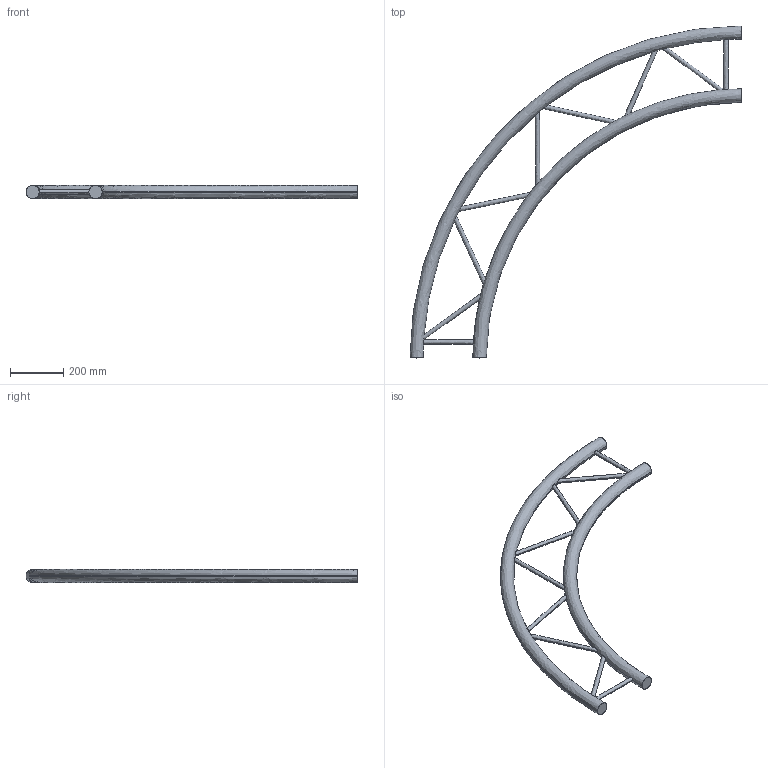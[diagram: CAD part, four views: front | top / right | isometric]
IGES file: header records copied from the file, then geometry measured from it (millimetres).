
Start section: SolidWorks IGES file using analytic representation for surfaces
Global section: file name: K:\BIBLIO\asd_biblio\EX290\Cercles\EXC290H\EXC29250H\EXC29250H.IGS; native system: SolidWorks 2009; preprocessor: SolidWorks 2009; author: des3; date: 091026.103403; units: millimetre
Bounding box: 1250 x 1250 x 50 mm (x, y, z)
Surface area: 660573.7 mm2 (no closed solid volume)
Topology: 0 solids, 0 shells, 26 faces, 1659 edges, 1659 vertices
Faces by surface type: revolution 18, bspline 8
